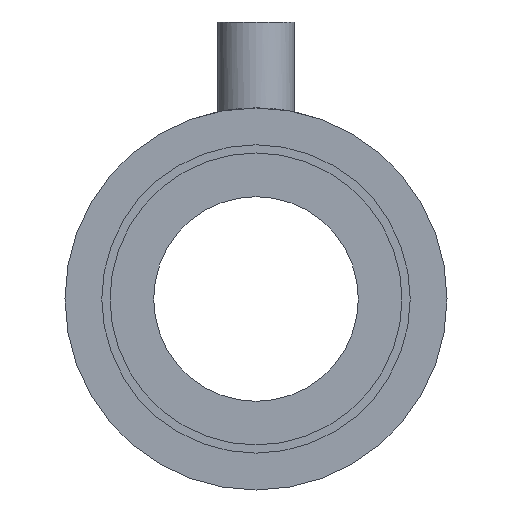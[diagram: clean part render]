
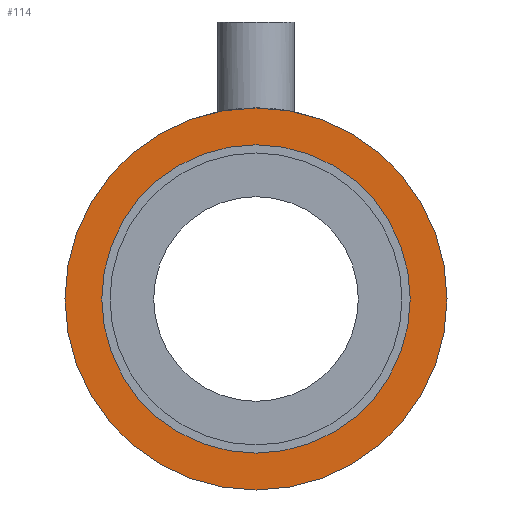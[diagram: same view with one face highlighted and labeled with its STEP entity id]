
A CAD part, front view. The second image highlights one B-rep face of the part: STEP entity #114.
In plain terms, the highlighted planar face has unit normal (0, -1, 0).
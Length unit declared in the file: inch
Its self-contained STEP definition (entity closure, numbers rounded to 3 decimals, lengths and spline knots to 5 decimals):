
#3 = EDGE_CURVE ( 'NONE', #442, #420, #203, .T. ) ;
#7 = EDGE_CURVE ( 'NONE', #451, #421, #247, .T. ) ;
#15 = EDGE_CURVE ( 'NONE', #421, #451, #230, .T. ) ;
#35 = EDGE_CURVE ( 'NONE', #420, #442, #264, .T. ) ;
#56 = AXIS2_PLACEMENT_3D ( 'NONE', #613, #615, #634 ) ;
#75 = AXIS2_PLACEMENT_3D ( 'NONE', #424, #425, #426 ) ;
#80 = AXIS2_PLACEMENT_3D ( 'NONE', #452, #415, #427 ) ;
#81 = AXIS2_PLACEMENT_3D ( 'NONE', #441, #453, #422 ) ;
#97 = AXIS2_PLACEMENT_3D ( 'NONE', #535, #536, #568 ) ;
#114 = ADVANCED_FACE ( 'NONE', ( #330, #332 ), #650, .F. ) ;
#145 = ORIENTED_EDGE ( 'NONE', *, *, #3, .F. ) ;
#165 = ORIENTED_EDGE ( 'NONE', *, *, #35, .F. ) ;
#180 = ORIENTED_EDGE ( 'NONE', *, *, #15, .T. ) ;
#196 = ORIENTED_EDGE ( 'NONE', *, *, #7, .T. ) ;
#203 = CIRCLE ( 'NONE', #80, 0.7 ) ;
#229 = EDGE_LOOP ( 'NONE', ( #180, #196 ) ) ;
#230 = CIRCLE ( 'NONE', #75, 0.565 ) ;
#242 = EDGE_LOOP ( 'NONE', ( #145, #165 ) ) ;
#247 = CIRCLE ( 'NONE', #81, 0.565 ) ;
#264 = CIRCLE ( 'NONE', #97, 0.7 ) ;
#330 = FACE_BOUND ( 'NONE', #229, .T. ) ;
#332 = FACE_OUTER_BOUND ( 'NONE', #242, .T. ) ;
#415 = DIRECTION ( 'NONE',  ( 0., 1., 0. ) ) ;
#420 = VERTEX_POINT ( 'NONE', #671 ) ;
#421 = VERTEX_POINT ( 'NONE', #673 ) ;
#422 = DIRECTION ( 'NONE',  ( 0., 0., 1. ) ) ;
#424 = CARTESIAN_POINT ( 'NONE',  ( 0., 0., 0. ) ) ;
#425 = DIRECTION ( 'NONE',  ( 0., 1., 0. ) ) ;
#426 = DIRECTION ( 'NONE',  ( 0., 0., 1. ) ) ;
#427 = DIRECTION ( 'NONE',  ( 0., 0., 1. ) ) ;
#441 = CARTESIAN_POINT ( 'NONE',  ( 0., 0., 0. ) ) ;
#442 = VERTEX_POINT ( 'NONE', #686 ) ;
#451 = VERTEX_POINT ( 'NONE', #725 ) ;
#452 = CARTESIAN_POINT ( 'NONE',  ( 0., 0., 0. ) ) ;
#453 = DIRECTION ( 'NONE',  ( 0., 1., 0. ) ) ;
#535 = CARTESIAN_POINT ( 'NONE',  ( 0., 0., 0. ) ) ;
#536 = DIRECTION ( 'NONE',  ( 0., 1., 0. ) ) ;
#568 = DIRECTION ( 'NONE',  ( 0., 0., 1. ) ) ;
#613 = CARTESIAN_POINT ( 'NONE',  ( 0., 0., 0. ) ) ;
#615 = DIRECTION ( 'NONE',  ( 0., 1., 0. ) ) ;
#634 = DIRECTION ( 'NONE',  ( 0., 0., 1. ) ) ;
#650 = PLANE ( 'NONE',  #56 ) ;
#671 = CARTESIAN_POINT ( 'NONE',  ( 0., 0., 0.7 ) ) ;
#673 = CARTESIAN_POINT ( 'NONE',  ( 0., 0., 0.565 ) ) ;
#686 = CARTESIAN_POINT ( 'NONE',  ( 0., 0., -0.7 ) ) ;
#725 = CARTESIAN_POINT ( 'NONE',  ( 0., 0., -0.565 ) ) ;
